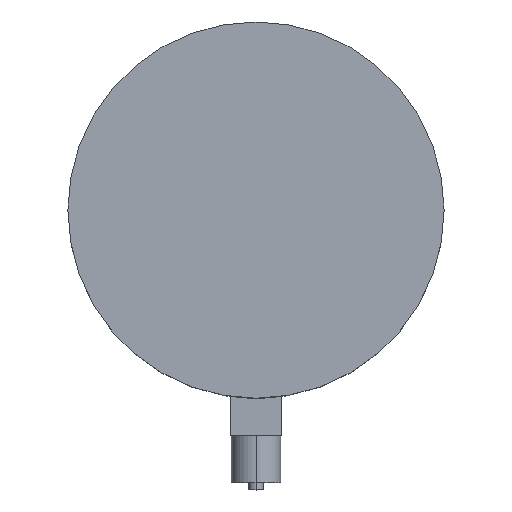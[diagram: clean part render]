
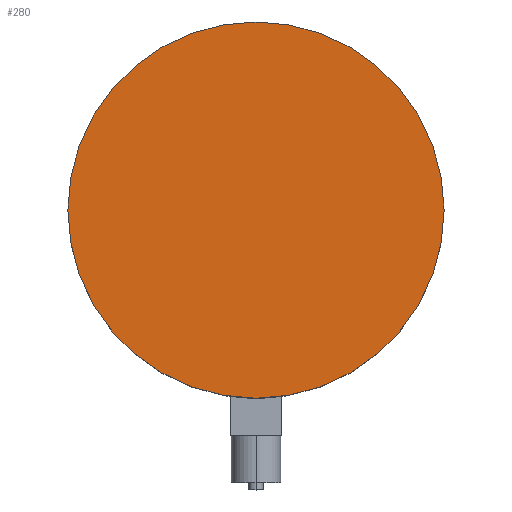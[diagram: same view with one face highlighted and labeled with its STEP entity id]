
A CAD part, top view. The second image highlights one B-rep face of the part: STEP entity #280.
In plain terms, the highlighted planar face has unit normal (0, 0, 1).
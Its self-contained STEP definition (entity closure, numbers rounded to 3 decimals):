
#3 = PLANE ( 'NONE',  #426 ) ;
#25 = DIRECTION ( 'NONE',  ( 0., 0., 1. ) ) ;
#28 = EDGE_CURVE ( 'NONE', #60, #406, #211, .T. ) ;
#60 = VERTEX_POINT ( 'NONE', #438 ) ;
#102 = AXIS2_PLACEMENT_3D ( 'NONE', #467, #354, #475 ) ;
#137 = CARTESIAN_POINT ( 'NONE',  ( 0., 0., 44. ) ) ;
#185 = DIRECTION ( 'NONE',  ( 1., 0., 0. ) ) ;
#211 = CIRCLE ( 'NONE', #102, 80. ) ;
#217 = ORIENTED_EDGE ( 'NONE', *, *, #28, .T. ) ;
#231 = EDGE_CURVE ( 'NONE', #406, #60, #451, .T. ) ;
#263 = CARTESIAN_POINT ( 'NONE',  ( 0., 0., 44. ) ) ;
#265 = DIRECTION ( 'NONE',  ( 0., 0., 1. ) ) ;
#280 = ADVANCED_FACE ( 'NONE', ( #495 ), #3, .T. ) ;
#290 = DIRECTION ( 'NONE',  ( 1., 0., 0. ) ) ;
#349 = AXIS2_PLACEMENT_3D ( 'NONE', #137, #25, #290 ) ;
#354 = DIRECTION ( 'NONE',  ( 0., 0., 1. ) ) ;
#377 = EDGE_LOOP ( 'NONE', ( #217, #403 ) ) ;
#390 = CARTESIAN_POINT ( 'NONE',  ( 80., 0., 44. ) ) ;
#403 = ORIENTED_EDGE ( 'NONE', *, *, #231, .T. ) ;
#406 = VERTEX_POINT ( 'NONE', #390 ) ;
#426 = AXIS2_PLACEMENT_3D ( 'NONE', #263, #265, #185 ) ;
#438 = CARTESIAN_POINT ( 'NONE',  ( -80., 0., 44. ) ) ;
#451 = CIRCLE ( 'NONE', #349, 80. ) ;
#467 = CARTESIAN_POINT ( 'NONE',  ( 0., 0., 44. ) ) ;
#475 = DIRECTION ( 'NONE',  ( 1., 0., 0. ) ) ;
#495 = FACE_OUTER_BOUND ( 'NONE', #377, .T. ) ;
